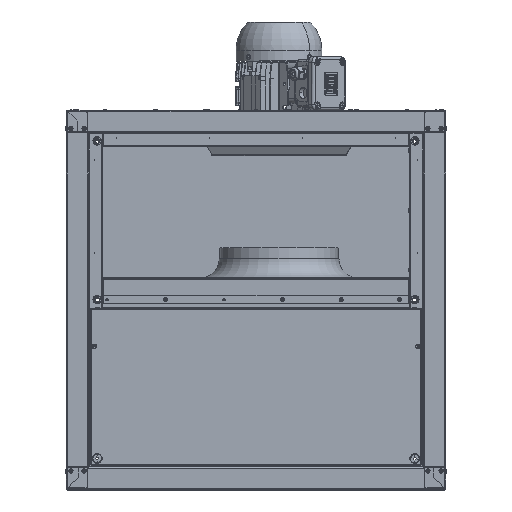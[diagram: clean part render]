
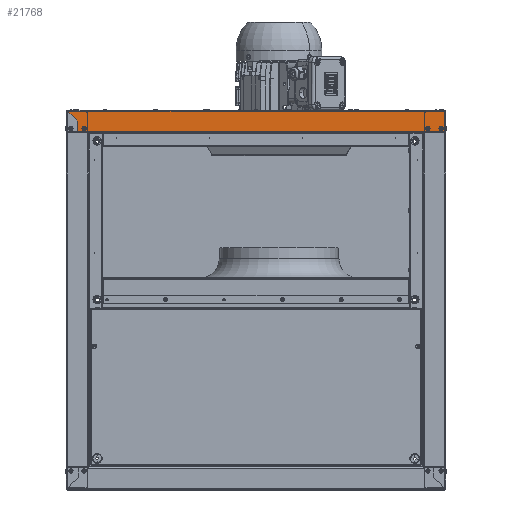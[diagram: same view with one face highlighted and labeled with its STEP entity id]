
A CAD part, top view. The second image highlights one B-rep face of the part: STEP entity #21768.
In plain terms, the highlighted planar face has unit normal (0, 0, 1).
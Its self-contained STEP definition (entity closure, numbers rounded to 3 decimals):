
#10 = VERTEX_POINT ( 'NONE', #28713 ) ;
#640 = FACE_BOUND ( 'NONE', #64352, .T. ) ;
#1400 = DIRECTION ( 'NONE',  ( 0., 0., 1. ) ) ;
#1699 = VERTEX_POINT ( 'NONE', #53269 ) ;
#2411 = PLANE ( 'NONE',  #17606 ) ;
#2446 = ORIENTED_EDGE ( 'NONE', *, *, #78428, .T. ) ;
#4855 = DIRECTION ( 'NONE',  ( 0., -1., 0. ) ) ;
#4928 = DIRECTION ( 'NONE',  ( 0., -1., 0. ) ) ;
#5650 = EDGE_CURVE ( 'NONE', #67953, #89049, #62501, .T. ) ;
#7279 = DIRECTION ( 'NONE',  ( 0., 0., 1. ) ) ;
#7598 = CARTESIAN_POINT ( 'NONE',  ( -310.05, 310.2, 350. ) ) ;
#7680 = CARTESIAN_POINT ( 'NONE',  ( 311.65, 310.7, 350. ) ) ;
#8214 = CARTESIAN_POINT ( 'NONE',  ( -329.1, 310.2, 350. ) ) ;
#9018 = CARTESIAN_POINT ( 'NONE',  ( -310.05, 310.2, 350. ) ) ;
#9230 = AXIS2_PLACEMENT_3D ( 'NONE', #42645, #1400, #49562 ) ;
#10452 = AXIS2_PLACEMENT_3D ( 'NONE', #87536, #46119, #4855 ) ;
#11039 = AXIS2_PLACEMENT_3D ( 'NONE', #62694, #21268, #69674 ) ;
#11623 = LINE ( 'NONE', #78721, #76526 ) ;
#12748 = DIRECTION ( 'NONE',  ( -1., 0., 0. ) ) ;
#12852 = EDGE_CURVE ( 'NONE', #79033, #80231, #61127, .T. ) ;
#13093 = VERTEX_POINT ( 'NONE', #43902 ) ;
#14063 = CIRCLE ( 'NONE', #11039, 2.1 ) ;
#16019 = CARTESIAN_POINT ( 'NONE',  ( -310.05, 310.7, 350. ) ) ;
#16447 = DIRECTION ( 'NONE',  ( -1., 0., 0. ) ) ;
#17606 = AXIS2_PLACEMENT_3D ( 'NONE', #57576, #64571, #23160 ) ;
#18445 = VECTOR ( 'NONE', #70133, 1000. ) ;
#18888 = FACE_BOUND ( 'NONE', #49496, .T. ) ;
#20216 = VECTOR ( 'NONE', #85502, 1000. ) ;
#20321 = DIRECTION ( 'NONE',  ( -0.707, 0.707, 0. ) ) ;
#21038 = FACE_OUTER_BOUND ( 'NONE', #63206, .T. ) ;
#21268 = DIRECTION ( 'NONE',  ( 0., 0., 1. ) ) ;
#21768 = ADVANCED_FACE ( 'NONE', ( #18888, #640, #71913, #21038 ), #2411, .F. ) ;
#21894 = VECTOR ( 'NONE', #20321, 1000. ) ;
#22051 = DIRECTION ( 'NONE',  ( 0., -1., 0. ) ) ;
#22337 = EDGE_CURVE ( 'NONE', #30465, #56816, #85766, .T. ) ;
#22898 = EDGE_CURVE ( 'NONE', #30465, #24489, #58643, .T. ) ;
#22937 = DIRECTION ( 'NONE',  ( 0., 1., 0. ) ) ;
#23160 = DIRECTION ( 'NONE',  ( 0., 1., 0. ) ) ;
#23284 = CARTESIAN_POINT ( 'NONE',  ( 311.65, 310.2, 350. ) ) ;
#24489 = VERTEX_POINT ( 'NONE', #27859 ) ;
#25564 = EDGE_CURVE ( 'NONE', #71077, #1699, #14063, .T. ) ;
#27112 = LINE ( 'NONE', #40494, #61717 ) ;
#27384 = DIRECTION ( 'NONE',  ( 0., -1., 0. ) ) ;
#27859 = CARTESIAN_POINT ( 'NONE',  ( -347.35, 348., 350. ) ) ;
#28713 = CARTESIAN_POINT ( 'NONE',  ( -317.2, 318.1, 350. ) ) ;
#30465 = VERTEX_POINT ( 'NONE', #70686 ) ;
#31829 = CIRCLE ( 'NONE', #81654, 2.1 ) ;
#33390 = ORIENTED_EDGE ( 'NONE', *, *, #37127, .T. ) ;
#36193 = CARTESIAN_POINT ( 'NONE',  ( 348., 310.2, 350. ) ) ;
#36500 = CARTESIAN_POINT ( 'NONE',  ( 341.7, 316., 350. ) ) ;
#36566 = LINE ( 'NONE', #16019, #85213 ) ;
#37127 = EDGE_CURVE ( 'NONE', #13093, #24489, #11623, .T. ) ;
#37388 = CARTESIAN_POINT ( 'NONE',  ( 311.65, 310.2, 350. ) ) ;
#38745 = CIRCLE ( 'NONE', #10452, 2.1 ) ;
#38970 = ORIENTED_EDGE ( 'NONE', *, *, #75129, .F. ) ;
#39033 = AXIS2_PLACEMENT_3D ( 'NONE', #87617, #46200, #4928 ) ;
#40494 = CARTESIAN_POINT ( 'NONE',  ( 348.95, 310.7, 350. ) ) ;
#40746 = LINE ( 'NONE', #23284, #20216 ) ;
#41671 = CIRCLE ( 'NONE', #9230, 2.1 ) ;
#42263 = ORIENTED_EDGE ( 'NONE', *, *, #25564, .F. ) ;
#42645 = CARTESIAN_POINT ( 'NONE',  ( -317.2, 316., 350. ) ) ;
#43133 = DIRECTION ( 'NONE',  ( 0., 1., 0. ) ) ;
#43418 = DIRECTION ( 'NONE',  ( 0., -1., 0. ) ) ;
#43504 = EDGE_CURVE ( 'NONE', #89049, #67953, #38745, .T. ) ;
#43668 = ORIENTED_EDGE ( 'NONE', *, *, #5650, .F. ) ;
#43902 = CARTESIAN_POINT ( 'NONE',  ( 348., 348., 350. ) ) ;
#44433 = EDGE_CURVE ( 'NONE', #80231, #80256, #40746, .T. ) ;
#44592 = ORIENTED_EDGE ( 'NONE', *, *, #75117, .T. ) ;
#45266 = AXIS2_PLACEMENT_3D ( 'NONE', #48560, #7279, #55566 ) ;
#46119 = DIRECTION ( 'NONE',  ( 0., 0., 1. ) ) ;
#46200 = DIRECTION ( 'NONE',  ( 0., 0., 1. ) ) ;
#48039 = LINE ( 'NONE', #36193, #82692 ) ;
#48215 = ORIENTED_EDGE ( 'NONE', *, *, #65904, .F. ) ;
#48560 = CARTESIAN_POINT ( 'NONE',  ( 317.2, 316., 350. ) ) ;
#49359 = CARTESIAN_POINT ( 'NONE',  ( 341.7, 313.9, 350. ) ) ;
#49496 = EDGE_LOOP ( 'NONE', ( #48215, #67939 ) ) ;
#49562 = DIRECTION ( 'NONE',  ( 0., -1., 0. ) ) ;
#51576 = CARTESIAN_POINT ( 'NONE',  ( 348., 310.2, 350. ) ) ;
#53269 = CARTESIAN_POINT ( 'NONE',  ( 341.7, 318.1, 350. ) ) ;
#55566 = DIRECTION ( 'NONE',  ( 0., -1., 0. ) ) ;
#56816 = VERTEX_POINT ( 'NONE', #80540 ) ;
#57332 = LINE ( 'NONE', #7598, #18445 ) ;
#57576 = CARTESIAN_POINT ( 'NONE',  ( 348.95, 350., 350. ) ) ;
#58643 = LINE ( 'NONE', #61708, #21894 ) ;
#58726 = CARTESIAN_POINT ( 'NONE',  ( 317.2, 313.9, 350. ) ) ;
#60750 = ORIENTED_EDGE ( 'NONE', *, *, #73885, .T. ) ;
#61127 = LINE ( 'NONE', #61849, #77400 ) ;
#61708 = CARTESIAN_POINT ( 'NONE',  ( -348.45, 349.1, 350. ) ) ;
#61717 = VECTOR ( 'NONE', #12748, 1000. ) ;
#61849 = CARTESIAN_POINT ( 'NONE',  ( 311.65, 310.7, 350. ) ) ;
#62085 = VERTEX_POINT ( 'NONE', #62268 ) ;
#62268 = CARTESIAN_POINT ( 'NONE',  ( -310.05, 310.7, 350. ) ) ;
#62501 = CIRCLE ( 'NONE', #45266, 2.1 ) ;
#62694 = CARTESIAN_POINT ( 'NONE',  ( 341.7, 316., 350. ) ) ;
#63206 = EDGE_LOOP ( 'NONE', ( #44592, #33390, #88687, #88850, #2446, #60750, #84488, #72006, #78743 ) ) ;
#64221 = ORIENTED_EDGE ( 'NONE', *, *, #43504, .F. ) ;
#64352 = EDGE_LOOP ( 'NONE', ( #43668, #64221 ) ) ;
#64501 = CARTESIAN_POINT ( 'NONE',  ( -317.2, 313.9, 350. ) ) ;
#64571 = DIRECTION ( 'NONE',  ( 0., 0., -1. ) ) ;
#64613 = CARTESIAN_POINT ( 'NONE',  ( 317.2, 318.1, 350. ) ) ;
#65085 = EDGE_CURVE ( 'NONE', #10, #71169, #70945, .T. ) ;
#65274 = VECTOR ( 'NONE', #22051, 1000. ) ;
#65904 = EDGE_CURVE ( 'NONE', #71169, #10, #41671, .T. ) ;
#67939 = ORIENTED_EDGE ( 'NONE', *, *, #65085, .F. ) ;
#67953 = VERTEX_POINT ( 'NONE', #58726 ) ;
#68827 = VERTEX_POINT ( 'NONE', #9018 ) ;
#69674 = DIRECTION ( 'NONE',  ( 0., -1., 0. ) ) ;
#70133 = DIRECTION ( 'NONE',  ( 1., 0., 0. ) ) ;
#70686 = CARTESIAN_POINT ( 'NONE',  ( -329.1, 329.75, 350. ) ) ;
#70945 = CIRCLE ( 'NONE', #39033, 2.1 ) ;
#71077 = VERTEX_POINT ( 'NONE', #49359 ) ;
#71169 = VERTEX_POINT ( 'NONE', #64501 ) ;
#71913 = FACE_BOUND ( 'NONE', #75837, .T. ) ;
#72006 = ORIENTED_EDGE ( 'NONE', *, *, #12852, .T. ) ;
#73885 = EDGE_CURVE ( 'NONE', #68827, #62085, #36566, .T. ) ;
#75117 = EDGE_CURVE ( 'NONE', #80256, #13093, #48039, .T. ) ;
#75129 = EDGE_CURVE ( 'NONE', #1699, #71077, #31829, .T. ) ;
#75837 = EDGE_LOOP ( 'NONE', ( #42263, #38970 ) ) ;
#76526 = VECTOR ( 'NONE', #16447, 1000. ) ;
#77400 = VECTOR ( 'NONE', #27384, 1000. ) ;
#78307 = EDGE_CURVE ( 'NONE', #79033, #62085, #27112, .T. ) ;
#78428 = EDGE_CURVE ( 'NONE', #56816, #68827, #57332, .T. ) ;
#78721 = CARTESIAN_POINT ( 'NONE',  ( 348.95, 348., 350. ) ) ;
#78743 = ORIENTED_EDGE ( 'NONE', *, *, #44433, .T. ) ;
#79033 = VERTEX_POINT ( 'NONE', #7680 ) ;
#80231 = VERTEX_POINT ( 'NONE', #37388 ) ;
#80256 = VERTEX_POINT ( 'NONE', #51576 ) ;
#80540 = CARTESIAN_POINT ( 'NONE',  ( -329.1, 310.2, 350. ) ) ;
#81654 = AXIS2_PLACEMENT_3D ( 'NONE', #36500, #84856, #43418 ) ;
#82692 = VECTOR ( 'NONE', #43133, 1000. ) ;
#84488 = ORIENTED_EDGE ( 'NONE', *, *, #78307, .F. ) ;
#84856 = DIRECTION ( 'NONE',  ( 0., 0., 1. ) ) ;
#85213 = VECTOR ( 'NONE', #22937, 1000. ) ;
#85502 = DIRECTION ( 'NONE',  ( 1., 0., 0. ) ) ;
#85766 = LINE ( 'NONE', #8214, #65274 ) ;
#87536 = CARTESIAN_POINT ( 'NONE',  ( 317.2, 316., 350. ) ) ;
#87617 = CARTESIAN_POINT ( 'NONE',  ( -317.2, 316., 350. ) ) ;
#88687 = ORIENTED_EDGE ( 'NONE', *, *, #22898, .F. ) ;
#88850 = ORIENTED_EDGE ( 'NONE', *, *, #22337, .T. ) ;
#89049 = VERTEX_POINT ( 'NONE', #64613 ) ;
